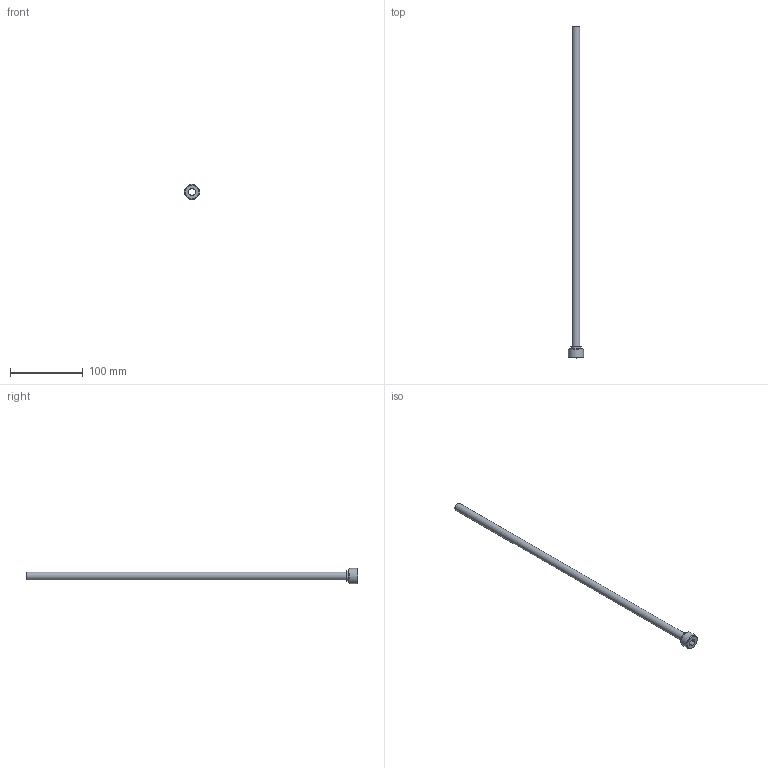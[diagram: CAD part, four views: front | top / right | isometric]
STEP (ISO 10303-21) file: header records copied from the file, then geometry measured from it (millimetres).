
FILE_DESCRIPTION(/* description */ (''),/* implementation_level */ '2;1');
FILE_NAME(/* name */ 'C:/Users/drich/Desktop/PT12-437-18 v1.step',/* time_stamp */ '2019-12-27T14:56:04-06:00',/* author */ (''),/* organization */ (''),/* preprocessor_version */ 'ST-DEVELOPER v18',/* originating_system */ 'Autodesk Translation Framework v8.12.0.6',/* authorisation */ '');
FILE_SCHEMA (('AUTOMOTIVE_DESIGN { 1 0 10303 214 3 1 1 }'));
Length unit declared in the file: inch
Products named in the file (1): PT12-437-18
Bounding box: 20.81 x 457.2 x 20.81 mm (x, y, z)
Volume: 9069.8 mm3; surface area: 30940.2 mm2
Topology: 1 solids, 1 shells, 30 faces, 71 edges, 45 vertices
Faces by surface type: plane 22, cylinder 4, torus 2, cone 2
Full cylindrical faces by diameter (mm): 10.084 x1, 10.846 x1, 13.868 x1, 20.813 x1
Entity records: 913 total; most frequent: DIRECTION 168, CARTESIAN_POINT 147, ORIENTED_EDGE 142, EDGE_CURVE 71, AXIS2_PLACEMENT_3D 66, VERTEX_POINT 45, LINE 36, VECTOR 36
